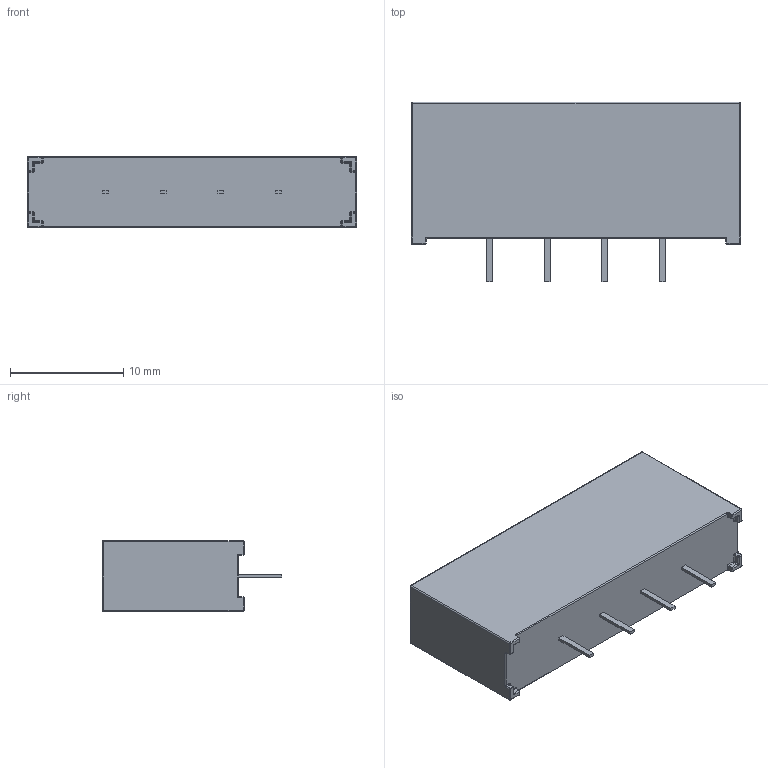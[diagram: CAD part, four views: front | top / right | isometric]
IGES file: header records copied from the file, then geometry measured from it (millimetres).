
Start section: SolidWorks IGES file using analytic representation for surfaces
Global section: file name: C:\Users\ahmet.furkan\OneDrive - Pickering\Desktop\Series_144\144-1-B.IGS; native system: SolidWorks 2023; preprocessor: SolidWorks 2023; author: Ahmet.Turan; date: 240307.161506; units: millimetre
Bounding box: 29 x 15.8 x 6.22 mm (x, y, z)
Surface area: 1229.8 mm2 (no closed solid volume)
Topology: 0 solids, 0 shells, 801 faces, 6765 edges, 6737 vertices
Faces by surface type: bspline 701, revolution 100
